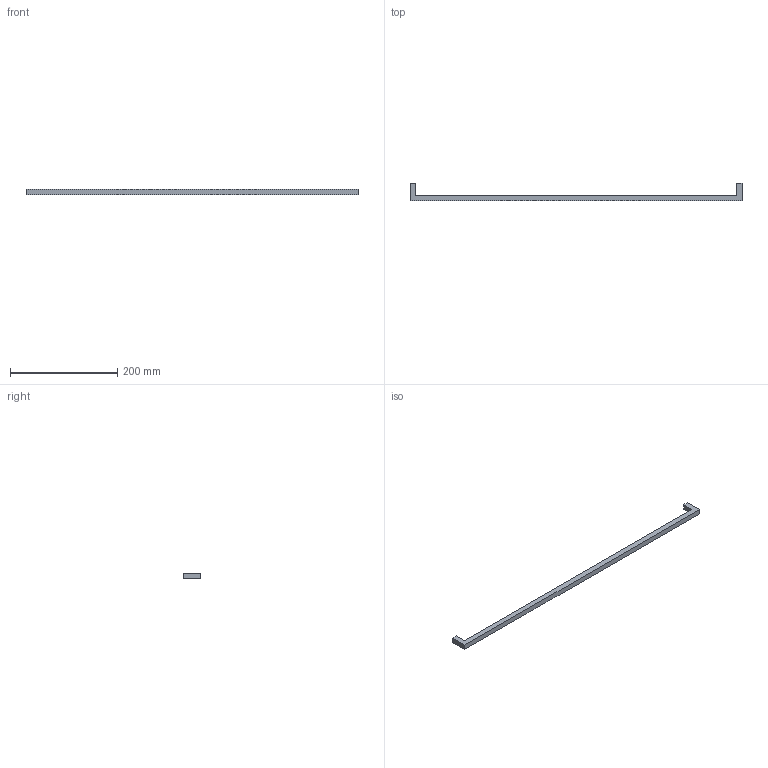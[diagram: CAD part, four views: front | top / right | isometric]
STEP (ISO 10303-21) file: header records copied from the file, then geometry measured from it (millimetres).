
FILE_DESCRIPTION( ( '' ), '1' );
FILE_NAME( 'C:/Documents and Settings/Sachin/Desktop/Sheet 10_1/stp/1160024.stp', '2013-10-22T06:49:34', ( '' ), ( '' ), ' ', ' ', ' ' );
FILE_SCHEMA( ( 'CONFIG_CONTROL_DESIGN' ) );
Length unit declared in the file: millimetre
Products named in the file (1): 1
Bounding box: 618 x 32 x 10 mm (x, y, z)
Volume: 65948.7 mm3; surface area: 26931.3 mm2
Topology: 1 solids, 1 shells, 16 faces, 36 edges, 24 vertices
Faces by surface type: plane 12, cylinder 4
Entity records: 492 total; most frequent: DIRECTION 78, CARTESIAN_POINT 77, ORIENTED_EDGE 72, EDGE_CURVE 36, LINE 28, VECTOR 28, AXIS2_PLACEMENT_3D 25, VERTEX_POINT 24
